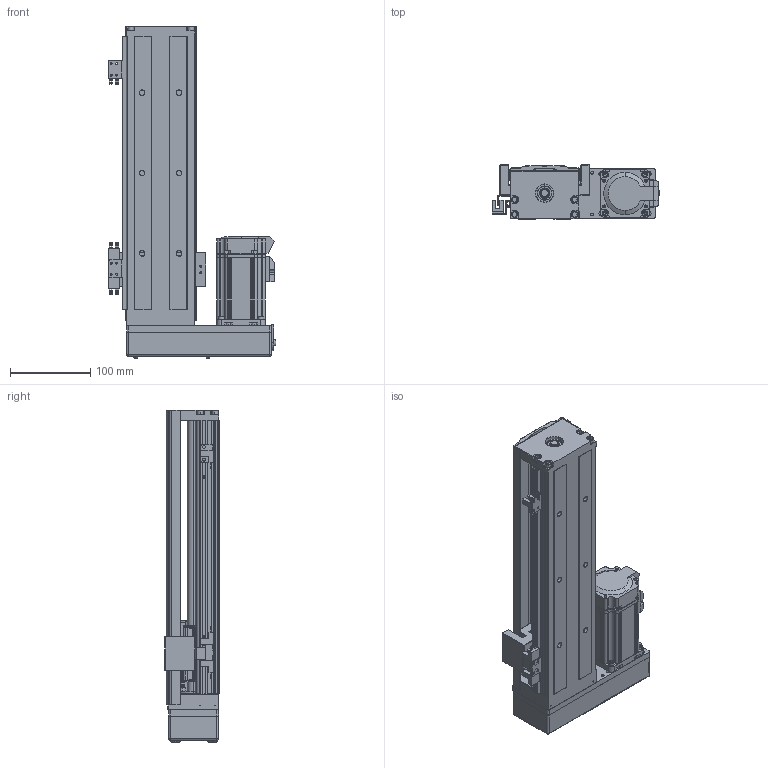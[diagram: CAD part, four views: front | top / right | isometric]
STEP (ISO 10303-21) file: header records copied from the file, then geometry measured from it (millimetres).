
FILE_DESCRIPTION (( 'STEP AP214' ), '1' );
FILE_NAME ('SFKK86-340S1-HR0C.STEP', '2023-02-20T01:07:32', ( '微软用户' ), ( '微软中国' ), 'SwSTEP 2.0', 'SolidWorks 2018', '' );
FILE_SCHEMA (( 'AUTOMOTIVE_DESIGN' ));
Length unit declared in the file: millimetre
Products named in the file (13): 带盖挡光片：KK-86-S2-D1; 开关固定座：KK-674S2-F; SFKK86-LR 憤癹寢耋_340; 蚐郲; SFKK86-FS; SFKK86-H0-侂狟400W耜蚾; hexagon socket countersunk head screws gb_GB_FASTENER_SCREWS_HSCHS M4X10-N; SX674嫖萇羲壽; SFKK86-CU_340; SFKK86-340S1-HR0C; 极限轨道与开关固定座组合_340; SFKK86-H0_KKR86-ZT-P-340; SFKK86-S1
Assembly tree (18 placements, depth 3):
  SFKK86-340S1-HR0C
    SFKK86-H0_KKR86-ZT-P-340
    SFKK86-S1
    极限轨道与开关固定座组合_340
      SFKK86-LR 憤癹寢耋_340
      开关固定座：KK-674S2-F  x2
    SX674嫖萇羲壽  x3
    蚐郲
    SFKK86-FS
    带盖挡光片：KK-86-S2-D1
    SFKK86-CU_340
    hexagon socket countersunk head screws gb_GB_FASTENER_SCREWS_HSCHS M4X10-N  x4
    SFKK86-H0-侂狟400W耜蚾
Bounding box: 208.5 x 68 x 413.2 mm (x, y, z)
Volume: 1021983.2 mm3; surface area: 482132.1 mm2
Topology: 31 solids, 80 shells, 3474 faces, 9313 edges, 5986 vertices
Faces by surface type: plane 1559, cylinder 1424, cone 273, bspline 98, torus 87, sphere 33
Entity records: 138826 total; most frequent: CARTESIAN_POINT 27702, DIRECTION 17456, ORIENTED_EDGE 16882, EDGE_CURVE 8724, AXIS2_PLACEMENT_3D 6219, VERTEX_POINT 5693, VECTOR 5018, LINE 5018
